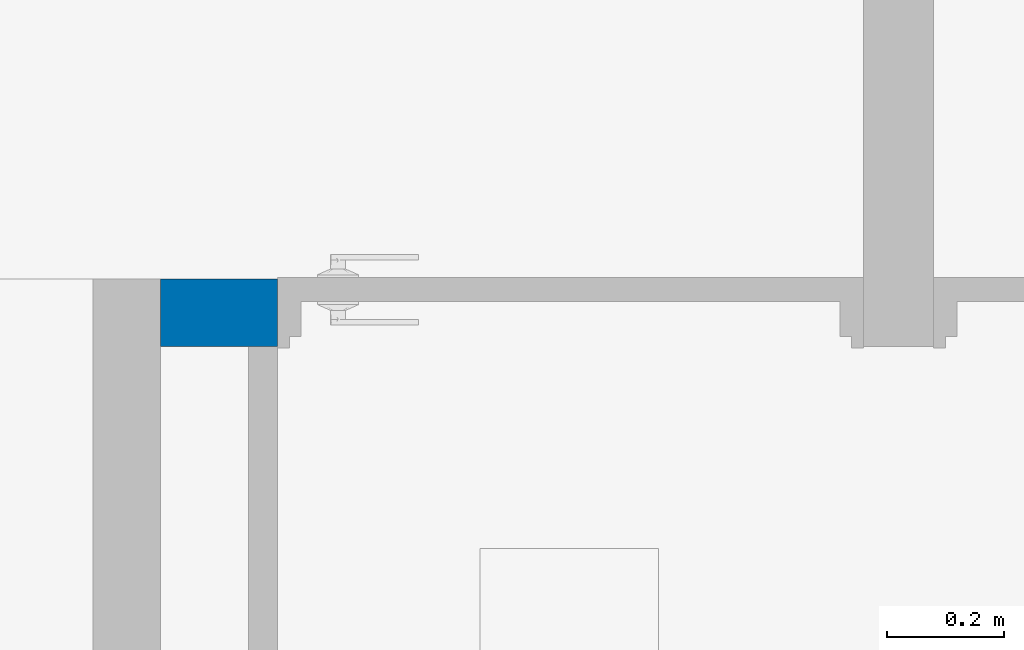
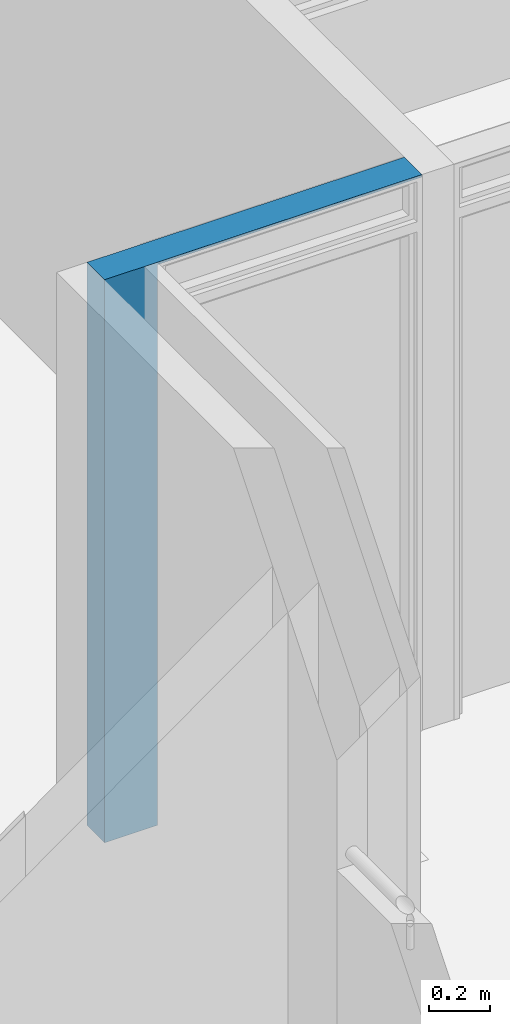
# One storey, part 33 of 51: 1 wall, 1 opening.
"""IFC4 building model written with IfcOpenShell, lengths in metres."""

from ifc_helpers import new_model, entity, si_unit, converted_unit, derived_unit, direction, frame, origin, place, context, subcontext, project, spatial, indexed_curve, outline, extrude, polygons, material, type_object, element, save


model = new_model("IFC4")

# Units and contexts
model_context = context("Model", 3, precision=1e-05, world=origin(), true_north=direction((6.123031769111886e-17, 1.0)))
body_context = subcontext(model_context, "Body", "Model", "MODEL_VIEW")
ifc_project = project(units=[si_unit("LENGTHUNIT", "METRE"), si_unit("AREAUNIT", "SQUARE_METRE"), si_unit("VOLUMEUNIT", "CUBIC_METRE"), converted_unit("PLANEANGLEUNIT", "DEGREE", entity("IfcRatioMeasure", 0.017453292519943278), si_unit("PLANEANGLEUNIT", "RADIAN"), dimensions=[0, 0, 0, 0, 0, 0, 0]), si_unit("MASSUNIT", "GRAM", prefix="KILO"), derived_unit("MASSDENSITYUNIT", [(si_unit("MASSUNIT", "GRAM", prefix="KILO"), 1), (si_unit("LENGTHUNIT", "METRE"), -3)]), derived_unit("IONCONCENTRATIONUNIT", [(si_unit("MASSUNIT", "GRAM", prefix="KILO"), 1), (si_unit("LENGTHUNIT", "METRE"), -3)]), derived_unit("MOMENTOFINERTIAUNIT", [(si_unit("LENGTHUNIT", "METRE"), 4)]), si_unit("TIMEUNIT", "SECOND"), si_unit("FREQUENCYUNIT", "HERTZ"), si_unit("THERMODYNAMICTEMPERATUREUNIT", "DEGREE_CELSIUS"), derived_unit("THERMALTRANSMITTANCEUNIT", [(si_unit("MASSUNIT", "GRAM", prefix="KILO"), 1), (si_unit("THERMODYNAMICTEMPERATUREUNIT", "KELVIN"), -1), (si_unit("TIMEUNIT", "SECOND"), -3)]), derived_unit("THERMALCONDUCTANCEUNIT", [(si_unit("MASSUNIT", "GRAM", prefix="KILO"), 1), (si_unit("THERMODYNAMICTEMPERATUREUNIT", "KELVIN"), -1), (si_unit("TIMEUNIT", "SECOND"), -3), (si_unit("LENGTHUNIT", "METRE"), 1)]), derived_unit("VOLUMETRICFLOWRATEUNIT", [(si_unit("LENGTHUNIT", "METRE"), 3), (si_unit("TIMEUNIT", "SECOND"), -1)]), derived_unit("MASSFLOWRATEUNIT", [(si_unit("MASSUNIT", "GRAM", prefix="KILO"), 1), (si_unit("TIMEUNIT", "SECOND"), -1)]), derived_unit("ROTATIONALFREQUENCYUNIT", [(si_unit("TIMEUNIT", "SECOND"), -1)]), si_unit("ELECTRICCURRENTUNIT", "AMPERE"), si_unit("ELECTRICVOLTAGEUNIT", "VOLT"), si_unit("POWERUNIT", "WATT"), si_unit("FORCEUNIT", "NEWTON", prefix="KILO"), si_unit("ILLUMINANCEUNIT", "LUX"), si_unit("LUMINOUSFLUXUNIT", "LUMEN"), si_unit("LUMINOUSINTENSITYUNIT", "CANDELA"), derived_unit("USERDEFINED", [(si_unit("MASSUNIT", "GRAM", prefix="KILO"), -1), (si_unit("LENGTHUNIT", "METRE"), -2), (si_unit("TIMEUNIT", "SECOND"), 3), (si_unit("LUMINOUSFLUXUNIT", "LUMEN"), 1)]), derived_unit("USERDEFINED", [(si_unit("MASSUNIT", "GRAM", prefix="KILO"), 1), (si_unit("TIMEUNIT", "SECOND"), -3), (si_unit("LENGTHUNIT", "METRE"), 3), (si_unit("ELECTRICCURRENTUNIT", "AMPERE"), -2)]), derived_unit("SOUNDPOWERUNIT", [(si_unit("MASSUNIT", "GRAM", prefix="KILO"), 1), (si_unit("TIMEUNIT", "SECOND"), -3), (si_unit("LENGTHUNIT", "METRE"), 2)]), derived_unit("SOUNDPRESSUREUNIT", [(si_unit("MASSUNIT", "GRAM", prefix="KILO"), 1), (si_unit("LENGTHUNIT", "METRE"), -1), (si_unit("TIMEUNIT", "SECOND"), -2)]), derived_unit("LINEARVELOCITYUNIT", [(si_unit("LENGTHUNIT", "METRE"), 1), (si_unit("TIMEUNIT", "SECOND"), -1)]), si_unit("PRESSUREUNIT", "PASCAL"), derived_unit("USERDEFINED", [(si_unit("MASSUNIT", "GRAM", prefix="KILO"), 1), (si_unit("LENGTHUNIT", "METRE"), -2), (si_unit("TIMEUNIT", "SECOND"), -2)]), derived_unit("LINEARFORCEUNIT", [(si_unit("MASSUNIT", "GRAM", prefix="KILO"), 1), (si_unit("TIMEUNIT", "SECOND"), -2)]), derived_unit("PLANARFORCEUNIT", [(si_unit("MASSUNIT", "GRAM", prefix="KILO"), 1), (si_unit("LENGTHUNIT", "METRE"), -1), (si_unit("TIMEUNIT", "SECOND"), -2)]), derived_unit("SPECIFICHEATCAPACITYUNIT", [(si_unit("THERMODYNAMICTEMPERATUREUNIT", "KELVIN"), -1), (si_unit("LENGTHUNIT", "METRE"), 2), (si_unit("TIMEUNIT", "SECOND"), -2)]), derived_unit("HEATINGVALUEUNIT", [(si_unit("LENGTHUNIT", "METRE"), 2), (si_unit("TIMEUNIT", "SECOND"), -2)]), derived_unit("VAPORPERMEABILITYUNIT", [(si_unit("LENGTHUNIT", "METRE"), -1), (si_unit("TIMEUNIT", "SECOND"), 1)]), derived_unit("DYNAMICVISCOSITYUNIT", [(si_unit("MASSUNIT", "GRAM", prefix="KILO"), 1), (si_unit("TIMEUNIT", "SECOND"), -1), (si_unit("LENGTHUNIT", "METRE"), -1)]), derived_unit("THERMALEXPANSIONCOEFFICIENTUNIT", [(si_unit("THERMODYNAMICTEMPERATUREUNIT", "KELVIN"), -1)]), derived_unit("MODULUSOFELASTICITYUNIT", [(si_unit("MASSUNIT", "GRAM", prefix="KILO"), 1), (si_unit("LENGTHUNIT", "METRE"), -1), (si_unit("TIMEUNIT", "SECOND"), -2)]), derived_unit("ISOTHERMALMOISTURECAPACITYUNIT", [(si_unit("LENGTHUNIT", "METRE"), 3), (si_unit("MASSUNIT", "GRAM", prefix="KILO"), -1)]), derived_unit("MOISTUREDIFFUSIVITYUNIT", [(si_unit("TIMEUNIT", "SECOND"), -1), (si_unit("LENGTHUNIT", "METRE"), 2)])], contexts=[model_context])

# Site, building, storey
site_placement = place(None, origin())
site = spatial("IfcSite", under=ifc_project, at=site_placement, Name="Default", CompositionType="ELEMENT")
building_placement = place(site_placement, origin())
building = spatial("IfcBuilding", under=site, at=building_placement, CompositionType="ELEMENT")
storey_placement = place(building_placement, frame((0.0, 0.0, 2.350000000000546)))
storey = spatial("IfcBuildingStorey", under=building, at=storey_placement, Name="Nivel 2", CompositionType="ELEMENT", Elevation=2.350000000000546)

# Wall, opening
ifc_material = material(Name="LADRILLO CLARO", Category="Materials")
wall_type = type_object("IfcWallType", Name="Basic Wall:B2010 - 0.115m - MI mampostería no estructural - Ladrillo", PredefinedType="STANDARD")
wall_placement = place(storey_placement, frame((8.062500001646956, -3.7675000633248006, 0.0)))
wall = element("IfcWall", 1, at=wall_placement, inside=storey, type_object=wall_type, material=ifc_material, Name="Basic Wall:B2010 - 0.115m - MI mampostería no estructural - Ladrillo", ObjectType="Basic Wall:B2010 - 0.115m - MI mampostería no estructural - Ladrillo", PredefinedType="NOTDEFINED", context=body_context, shape_type="Tessellation", body=[
    polygons([(1.1999999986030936, -0.05750000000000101, 2.2499999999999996), (0.1999999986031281, -0.057499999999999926, 2.2499999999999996), (0.14999999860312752, -0.05750000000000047, 2.2499999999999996), (6.609339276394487e-16, -0.057499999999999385, 2.2499999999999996), (6.609339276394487e-16, -0.057499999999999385, 0.0), (0.14999999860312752, -0.05750000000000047, 0.0), (0.19999999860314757, -0.057499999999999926, 0.0), (0.19999999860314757, -0.057499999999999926, 2.2399999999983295), (1.1999999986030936, -0.05750000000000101, 2.2399999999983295), (3.9617900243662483e-16, 0.05750000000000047, 2.2499999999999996), (1.1999999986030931, 0.057499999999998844, 2.2499999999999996), (1.1999999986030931, 0.057499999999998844, 2.2399999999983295), (0.19999999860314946, 0.057499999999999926, 2.2399999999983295), (0.1999999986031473, 0.057499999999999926, 0.0), (3.9617900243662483e-16, 0.05750000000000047, 0.0)], [[[1, 2, 3, 4, 5, 6, 7, 8, 9]], [[10, 11, 12, 13, 14, 15]], [[5, 15, 14, 7, 6]], [[11, 1, 9, 12]], [[4, 3, 2, 1, 11, 10]], [[5, 4, 10, 15]], [[13, 8, 7, 14]], [[8, 13, 12, 9]]], closed=True),
])
opening_placement = place(wall_placement, frame((0.19999999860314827, -0.057499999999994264, 0.0)))
element("IfcOpeningElement", 2, at=opening_placement, cuts=wall, Name="C1030 - Puerta batiente - Madera + Metal:C1030 - 1.00 x 2.24 - Puerta batiente - Madera:1", PredefinedType="OPENING", context=body_context, shape_type="SweptSolid", body=[
    extrude(outline(indexed_curve([(0.0, -4.288200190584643e-32), (2.2399999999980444, -4.288200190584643e-32), (2.2399999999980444, 0.9999999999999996), (0.0, 0.9999999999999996), (0.0, -4.288200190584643e-32)], self_intersect=False)), frame((0.0, 0.0, 0.0), z_axis=(0.0, 1.0, 0.0), x_axis=(0.0, 0.0, 1.0)), (0.0, 0.0, 1.0), 0.115),
])

save(model, "model.ifc")
